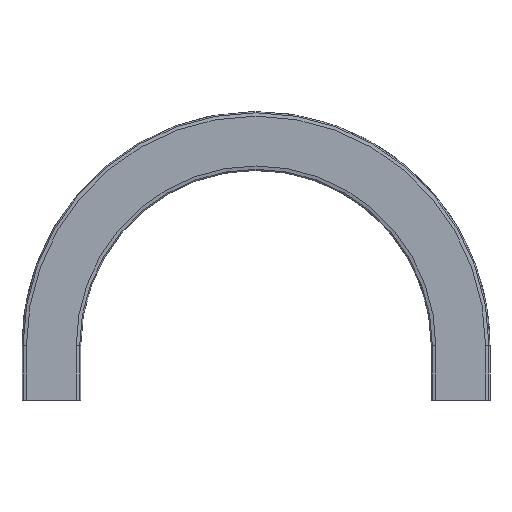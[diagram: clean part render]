
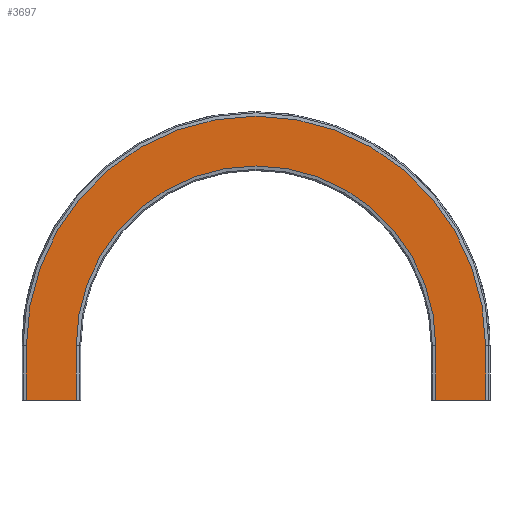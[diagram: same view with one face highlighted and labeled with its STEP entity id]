
A CAD part, front view. The second image highlights one B-rep face of the part: STEP entity #3697.
In plain terms, the highlighted planar face has unit normal (0, -1, 0).
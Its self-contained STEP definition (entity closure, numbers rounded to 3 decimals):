
#399=FACE_OUTER_BOUND('',#607,.T.);
#607=EDGE_LOOP('',(#3369,#3370,#3371,#3372,#3373,#3374,#3375,#3376));
#709=CIRCLE('',#3974,336.5);
#712=CIRCLE('',#3980,263.5);
#1050=LINE('',#6985,#1416);
#1055=LINE('',#6994,#1421);
#1057=LINE('',#6999,#1423);
#1072=LINE('',#7039,#1438);
#1077=LINE('',#7050,#1443);
#1078=LINE('',#7052,#1444);
#1416=VECTOR('',#4815,10.);
#1421=VECTOR('',#4822,10.);
#1423=VECTOR('',#4826,10.);
#1438=VECTOR('',#4867,10.);
#1443=VECTOR('',#4880,10.);
#1444=VECTOR('',#4883,10.);
#1772=VERTEX_POINT('',#6982);
#1773=VERTEX_POINT('',#6984);
#1776=VERTEX_POINT('',#6991);
#1777=VERTEX_POINT('',#6996);
#1787=VERTEX_POINT('',#7022);
#1789=VERTEX_POINT('',#7032);
#1790=VERTEX_POINT('',#7037);
#1792=VERTEX_POINT('',#7048);
#2288=EDGE_CURVE('',#1773,#1772,#1050,.T.);
#2293=EDGE_CURVE('',#1773,#1776,#1055,.T.);
#2295=EDGE_CURVE('',#1772,#1777,#1057,.T.);
#2308=EDGE_CURVE('',#1777,#1787,#709,.T.);
#2314=EDGE_CURVE('',#1776,#1789,#712,.T.);
#2316=EDGE_CURVE('',#1787,#1790,#1072,.T.);
#2321=EDGE_CURVE('',#1789,#1792,#1077,.T.);
#2322=EDGE_CURVE('',#1790,#1792,#1078,.T.);
#3369=ORIENTED_EDGE('',*,*,#2322,.T.);
#3370=ORIENTED_EDGE('',*,*,#2321,.F.);
#3371=ORIENTED_EDGE('',*,*,#2314,.F.);
#3372=ORIENTED_EDGE('',*,*,#2293,.F.);
#3373=ORIENTED_EDGE('',*,*,#2288,.T.);
#3374=ORIENTED_EDGE('',*,*,#2295,.T.);
#3375=ORIENTED_EDGE('',*,*,#2308,.T.);
#3376=ORIENTED_EDGE('',*,*,#2316,.T.);
#3506=PLANE('',#3986);
#3697=ADVANCED_FACE('',(#399),#3506,.T.);
#3974=AXIS2_PLACEMENT_3D('',#7024,#4847,#4848);
#3980=AXIS2_PLACEMENT_3D('',#7035,#4862,#4863);
#3986=AXIS2_PLACEMENT_3D('',#7051,#4881,#4882);
#4815=DIRECTION('',(1.,0.,0.));
#4822=DIRECTION('',(0.,0.,1.));
#4826=DIRECTION('',(0.,0.,1.));
#4847=DIRECTION('center_axis',(0.,-1.,0.));
#4848=DIRECTION('ref_axis',(1.,0.,0.));
#4862=DIRECTION('center_axis',(0.,-1.,0.));
#4863=DIRECTION('ref_axis',(1.,0.,0.));
#4867=DIRECTION('',(0.,0.,-1.));
#4880=DIRECTION('',(0.,0.,-1.));
#4881=DIRECTION('center_axis',(0.,-1.,0.));
#4882=DIRECTION('ref_axis',(0.,0.,
1.));
#4883=DIRECTION('',(1.,0.,0.));
#6982=CARTESIAN_POINT('',(36.5,-11.,0.));
#6984=CARTESIAN_POINT('',(-36.5,-11.,0.));
#6985=CARTESIAN_POINT('',(-36.5,-11.,0.));
#6991=CARTESIAN_POINT('',(-36.5,-11.,80.));
#6994=CARTESIAN_POINT('',(-36.5,-11.,0.));
#6996=CARTESIAN_POINT('',(36.5,-11.,80.));
#6999=CARTESIAN_POINT('',(36.5,-11.,0.));
#7022=CARTESIAN_POINT('',(-636.5,-11.,80.));
#7024=CARTESIAN_POINT('Origin',(-300.,-11.,80.));
#7032=CARTESIAN_POINT('',(-563.5,-11.,80.));
#7035=CARTESIAN_POINT('Origin',(-300.,-11.,80.));
#7037=CARTESIAN_POINT('',(-636.5,-11.,0.));
#7039=CARTESIAN_POINT('',(-636.5,-11.,1102.478));
#7048=CARTESIAN_POINT('',(-563.5,-11.,0.));
#7050=CARTESIAN_POINT('',(-563.5,-11.,1102.478));
#7051=CARTESIAN_POINT('Origin',(-636.5,-11.,1102.478));
#7052=CARTESIAN_POINT('',(-619.75,-11.,0.));
